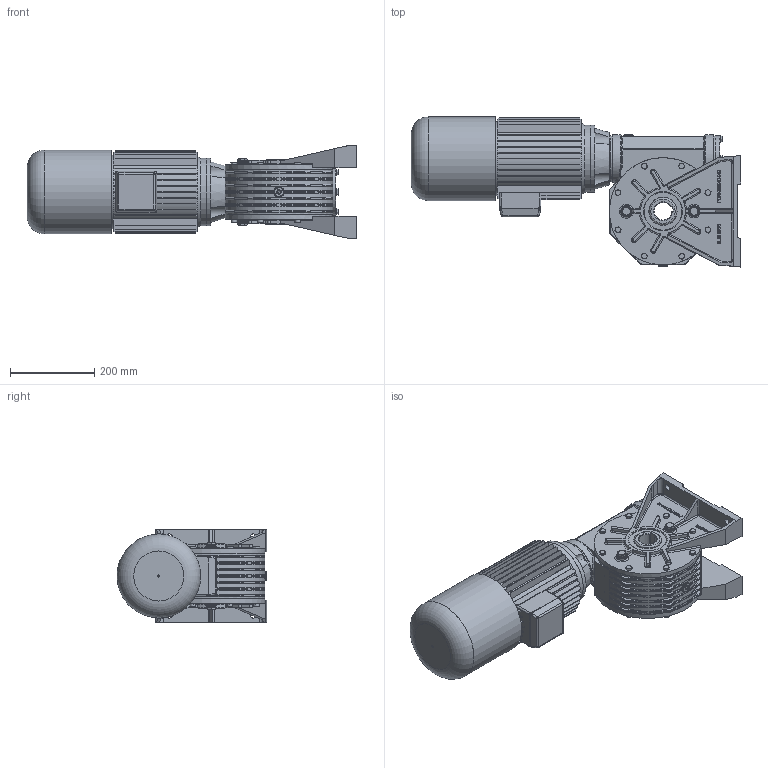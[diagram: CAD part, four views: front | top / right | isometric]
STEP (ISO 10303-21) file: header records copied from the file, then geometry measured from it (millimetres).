
FILE_DESCRIPTION((''),'2;1');
FILE_NAME('Y:\Archivi Inventor\Prog_01\GRAND_60\FIGURINI\MRV60 sito\100L AUTOFRENANTE\MRV60_P3_100L_B14.stp','2013-02-08T14:29:35',('tech3'),(''),'Autodesk Inventor 2013','Autodesk Inventor 2013','');
FILE_SCHEMA(('AUTOMOTIVE_DESIGN { 1 0 10303 214 1 1 1 1 }'));
Length unit declared in the file: millimetre
Products named in the file (18): MRV60_100L_112M_B14; MRV60_FIG; 0106001.A0 figurino; 0106010.A0 figurino; 0106009; UNI 5739 M8 x 20; figurino corona; PARAOLIO 65x90x10; 0106028; 0106029; UNI 5739 M8 x 25; Guarnizione 3_8 GAS; Tappo3_8 GAS; Tappo 3_8 GAS_esagn_incsst; DIN EN ISO 4762 M8 x 16; UNI 8839 A 8; 0106006; motori B14 brake 100
Assembly tree (53 placements, depth 3):
  MRV60_100L_112M_B14
    MRV60_FIG
      0106001.A0 figurino
      0106010.A0 figurino  x2
      0106009
      UNI 5739 M8 x 20  x4
      figurino corona
      PARAOLIO 65x90x10  x2
      0106028
      0106029  x2
      UNI 5739 M8 x 25  x8
      Guarnizione 3_8 GAS  x6
      Tappo3_8 GAS  x4
      Tappo 3_8 GAS_esagn_incsst  x2
      DIN EN ISO 4762 M8 x 16  x12
      UNI 8839 A 8  x4
    0106006
    motori B14 brake 100
Bounding box: 784.1 x 357 x 221.7 mm (x, y, z)
Volume: 15595688.6 mm3; surface area: 1668579 mm2
Topology: 53 solids, 57 shells, 2669 faces, 6580 edges, 4056 vertices
Faces by surface type: plane 1160, cylinder 611, bspline 564, cone 161, torus 125, sphere 48
Full cylindrical faces by diameter (mm): 2 x2, 5 x1, 6.647 x28, 8 x26, 8.5 x40, 8.75 x4, 9 x4, 11.63 x12, 13 x12, 13.046 x4, 14 x4, 14.95 x6, 16.3 x6, 16.5 x2, 22 x12, 25 x6, 28 x1, 42 x1, 65 x2, 70 x1, 72.881 x2, 80 x5, 83.5 x2, 90 x5, 109 x1, 109.5 x1, 110 x6, 114 x2, 160 x2, 175.12 x1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
Entity records: 57993 total; most frequent: CARTESIAN_POINT 19445, ORIENTED_EDGE 7830, DIRECTION 7183, EDGE_CURVE 3915, AXIS2_PLACEMENT_3D 2648, VERTEX_POINT 2524, EDGE_LOOP 2001, VECTOR 1887
